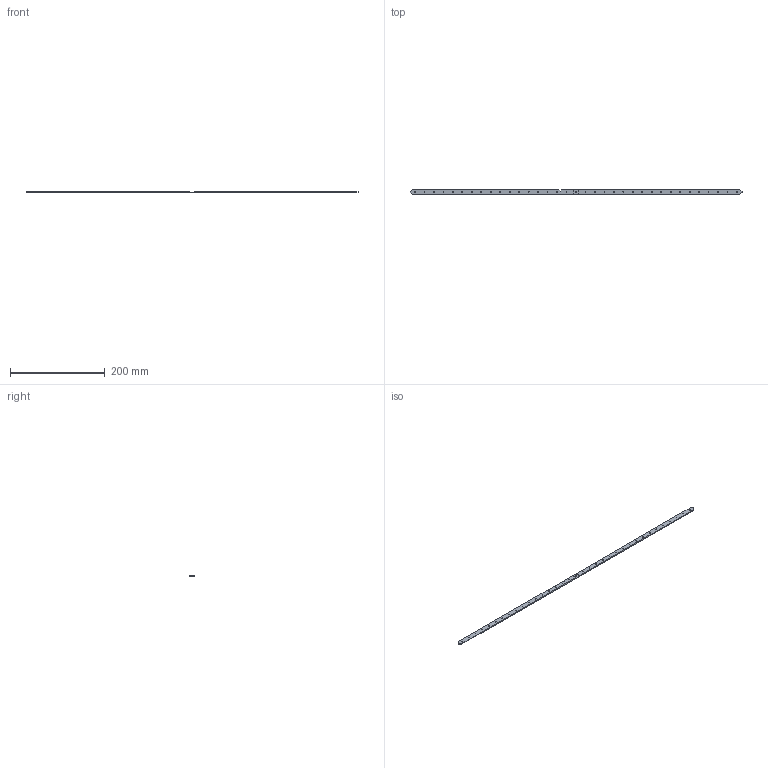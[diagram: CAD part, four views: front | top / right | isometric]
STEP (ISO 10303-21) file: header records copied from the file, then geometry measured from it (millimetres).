
FILE_DESCRIPTION (( 'STEP AP214' ), '1' );
FILE_NAME ('SC152_sud.STEP', '2016-02-26T10:50:57', ( '' ), ( '' ), 'SwSTEP 2.0', 'SolidWorks 2012', '' );
FILE_SCHEMA (( 'AUTOMOTIVE_DESIGN' ));
Length unit declared in the file: millimetre
Products named in the file (1): SC152_sud
Bounding box: 701 x 10 x 2 mm (x, y, z)
Volume: 13657.4 mm3; surface area: 16929.9 mm2
Topology: 1 solids, 1 shells, 85 faces, 249 edges, 166 vertices
Faces by surface type: cylinder 70, plane 15
Entity records: 3077 total; most frequent: DIRECTION 561, CARTESIAN_POINT 501, ORIENTED_EDGE 498, EDGE_CURVE 249, AXIS2_PLACEMENT_3D 226, VERTEX_POINT 166, EDGE_LOOP 155, CIRCLE 140
